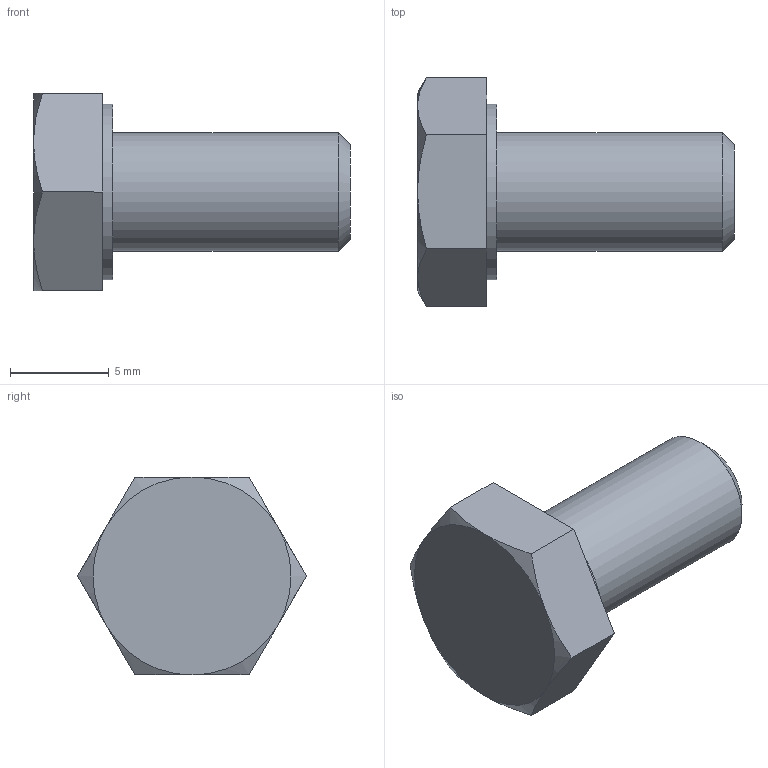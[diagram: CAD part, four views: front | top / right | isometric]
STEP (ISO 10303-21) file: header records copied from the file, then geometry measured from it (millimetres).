
FILE_DESCRIPTION(/* description */ ('6각 머리 볼트 및 6각 머리 나사'),/* implementation_level */ '2;1');
FILE_NAME(/* name */ '',/* time_stamp */ '2024-09-02T11:23:42+09:00',/* author */ ('jhkim'),/* organization */ (''),/* preprocessor_version */ 'ST-DEVELOPER v20',/* originating_system */ 'Autodesk Inventor 2025',/* authorisation */ '');
FILE_SCHEMA (('AUTOMOTIVE_DESIGN { 1 0 10303 214 3 1 1 }'));
Length unit declared in the file: millimetre
Products named in the file (1): 육각 머리 볼트 M6x0.
75x12
Bounding box: 16 x 11.55 x 10 mm (x, y, z)
Volume: 669 mm3; surface area: 523.3 mm2
Topology: 1 solids, 1 shells, 19 faces, 39 edges, 24 vertices
Faces by surface type: plane 10, cone 7, cylinder 2
Full cylindrical faces by diameter (mm): 6 x1, 8.88 x1
Entity records: 528 total; most frequent: CARTESIAN_POINT 107, DIRECTION 79, ORIENTED_EDGE 78, EDGE_CURVE 39, AXIS2_PLACEMENT_3D 32, VERTEX_POINT 24, EDGE_LOOP 21, FACE_OUTER_BOUND 19
